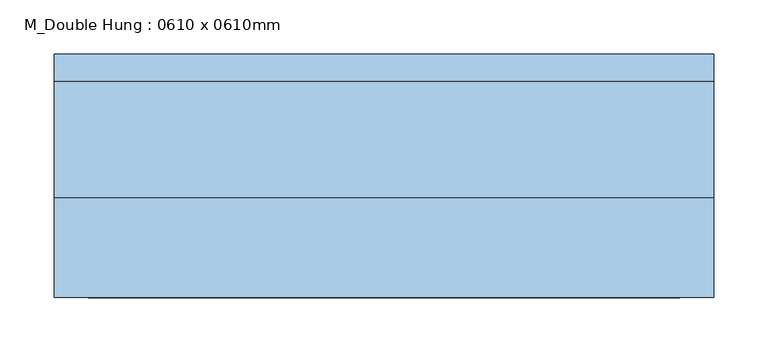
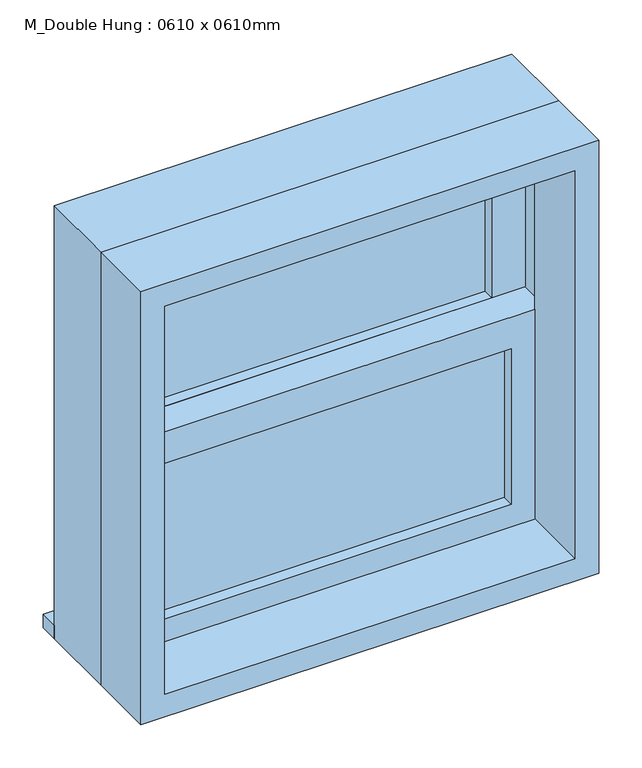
"""IFC4 building model written with IfcOpenShell, lengths in millimetres: window geometry, M_Double Hung : 0610 x 0610mm."""

from ifc_helpers import new_model, si_unit, frame, origin, place, context, project, spatial, polyline, outline, extrude, source, transform, mapped, element, save


def m_double_hung_0610_x_0610mm_d8fe41b6(model_context):
    return source(origin(), model_context, "Body", "SweptSolid", [
        extrude(outline(polyline([(-241.5, 20.675), (241.5, 20.675), (241.5, 7.975), (-241.5, 7.975), (-241.5, 20.675)])), frame((0.0, 0.0, 978.5), z_axis=(0.0, 0.0, 1.0), x_axis=(1.0, 0.0, 0.0)), (0.0, 0.0, 1.0), 219.275),
        extrude(outline(polyline([(1242.225, -285.95), (934.05, -285.95), (934.05, 285.95), (1242.225, 285.95), (1242.225, -285.95)]), holes=[polyline([(1197.775, -241.5), (1197.775, 241.5), (978.5, 241.5), (978.5, -241.5), (1197.775, -241.5)])]), frame((0.0, -7.9, 0.0), z_axis=(0.0, 1.0, 0.0), x_axis=(0.0, 0.0, 1.0)), (0.0, 0.0, 1.0), 44.45),
        extrude(outline(polyline([(-305.0, 125.4), (305.0, 125.4), (305.0, 100.0), (-305.0, 100.0), (-305.0, 125.4)])), frame((0.0, 0.0, 915.0), z_axis=(0.0, 0.0, 1.0), x_axis=(1.0, 0.0, 0.0)), (0.0, 0.0, 1.0), 19.05),
        extrude(outline(polyline([(241.5, 52.425), (-241.5, 52.425), (-241.5, 65.125), (241.5, 65.125), (241.5, 52.425)])), frame((0.0, 0.0, 1242.225), z_axis=(0.0, 0.0, 1.0), x_axis=(1.0, 0.0, 0.0)), (0.0, 0.0, 1.0), 219.275),
        extrude(outline(polyline([(1505.95, -285.95), (1197.775, -285.95), (1197.775, 285.95), (1505.95, 285.95), (1505.95, -285.95)]), holes=[polyline([(1461.5, -241.5), (1461.5, 241.5), (1242.225, 241.5), (1242.225, -241.5), (1461.5, -241.5)])]), frame((0.0, 36.55, 0.0), z_axis=(0.0, 1.0, 0.0), x_axis=(0.0, 0.0, 1.0)), (0.0, 0.0, 1.0), 44.45),
        extrude(outline(polyline([(1525.0, -305.0), (915.0, -305.0), (915.0, 305.0), (1525.0, 305.0), (1525.0, -305.0)]), holes=[polyline([(1493.25, -273.25), (1493.25, 273.25), (946.75, 273.25), (946.75, -273.25), (1493.25, -273.25)])]), frame((0.0, -100.0, 0.0), z_axis=(0.0, 1.0, 0.0), x_axis=(0.0, 0.0, 1.0)), (0.0, 0.0, 1.0), 92.1),
        extrude(outline(polyline([(1525.0, 305.0), (1525.0, -305.0), (915.0, -305.0), (915.0, 305.0), (1525.0, 305.0)]), holes=[polyline([(1505.95, 285.95), (934.05, 285.95), (934.05, -285.95), (1505.95, -285.95), (1505.95, 285.95)])]), frame((0.0, -7.9, 0.0), z_axis=(0.0, 1.0, 0.0), x_axis=(0.0, 0.0, 1.0)), (0.0, 0.0, 1.0), 107.9),
    ])


if __name__ == "__main__":
    model = new_model("IFC4")
    model_context = context("Model", 3, world=origin())
    ifc_project = project(units=[si_unit("LENGTHUNIT", "METRE", prefix="MILLI")], contexts=[model_context])
    site = spatial("IfcSite", under=ifc_project)
    building = spatial("IfcBuilding", under=site)
    placement = place(None, origin())
    m_double_hung_0610_x_0610mm_shape = m_double_hung_0610_x_0610mm_d8fe41b6(model_context)
    element("IfcWindow", 1, ObjectType="M_Double Hung : 0610 x 0610mm", at=placement, inside=building, context=model_context, shape_type="MappedRepresentation", body=[
        mapped(m_double_hung_0610_x_0610mm_shape, transform((0.0, 0.0, 0.0), x_axis=(1.0, 0.0, 0.0), y_axis=(0.0, 1.0, 0.0), z_axis=(0.0, 0.0, 1.0))),
    ])
    save(model, "model.ifc")
